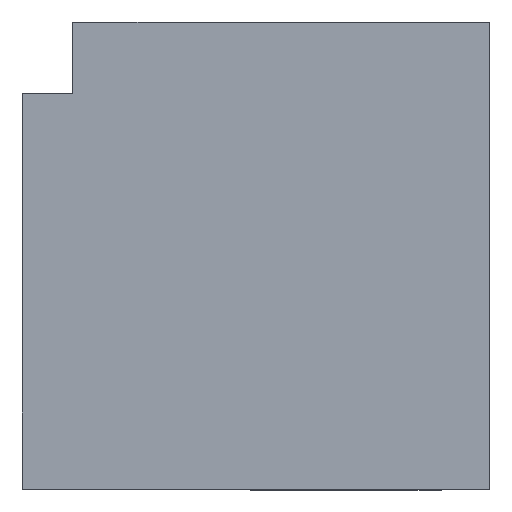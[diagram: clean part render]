
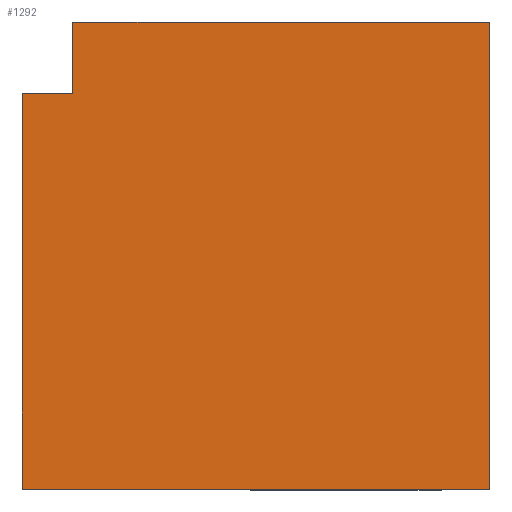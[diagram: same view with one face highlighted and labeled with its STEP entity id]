
A CAD part, top view. The second image highlights one B-rep face of the part: STEP entity #1292.
In plain terms, the highlighted planar face has unit normal (0, 0, 1).
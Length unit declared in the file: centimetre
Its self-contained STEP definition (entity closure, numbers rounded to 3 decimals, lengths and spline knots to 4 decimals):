
#1 = LINE ( 'NONE', #1041, #629 ) ;
#67 = FACE_OUTER_BOUND ( 'NONE', #309, .T. ) ;
#85 = LINE ( 'NONE', #1243, #1318 ) ;
#105 = VERTEX_POINT ( 'NONE', #1224 ) ;
#127 = CARTESIAN_POINT ( 'NONE',  ( 0., 0., 1000. ) ) ;
#132 = VERTEX_POINT ( 'NONE', #409 ) ;
#167 = VECTOR ( 'NONE', #863, 100. ) ;
#280 = DIRECTION ( 'NONE',  ( 1., 0., 0. ) ) ;
#285 = EDGE_CURVE ( 'NONE', #1294, #105, #1, .T. ) ;
#309 = EDGE_LOOP ( 'NONE', ( #1161, #786, #942, #495, #883, #683 ) ) ;
#318 = CARTESIAN_POINT ( 'NONE',  ( 0., 847.5264, 1000. ) ) ;
#329 = VERTEX_POINT ( 'NONE', #318 ) ;
#333 = DIRECTION ( 'NONE',  ( 0., 1., 0. ) ) ;
#345 = CARTESIAN_POINT ( 'NONE',  ( 108.0588, 847.5264, 1000. ) ) ;
#369 = VECTOR ( 'NONE', #547, 100. ) ;
#387 = CARTESIAN_POINT ( 'NONE',  ( 0., 1000., 1000. ) ) ;
#403 = VERTEX_POINT ( 'NONE', #541 ) ;
#409 = CARTESIAN_POINT ( 'NONE',  ( 108.0588, 1000., 1000. ) ) ;
#481 = PLANE ( 'NONE',  #1065 ) ;
#495 = ORIENTED_EDGE ( 'NONE', *, *, #775, .T. ) ;
#503 = DIRECTION ( 'NONE',  ( 0., 1., 0. ) ) ;
#541 = CARTESIAN_POINT ( 'NONE',  ( 0., 0., 1000. ) ) ;
#547 = DIRECTION ( 'NONE',  ( 1., 0., 0. ) ) ;
#625 = CARTESIAN_POINT ( 'NONE',  ( 0., 1000., 1000. ) ) ;
#629 = VECTOR ( 'NONE', #333, 100. ) ;
#643 = LINE ( 'NONE', #127, #369 ) ;
#674 = VECTOR ( 'NONE', #1201, 100. ) ;
#676 = CARTESIAN_POINT ( 'NONE',  ( 0., 847.5264, 1000. ) ) ;
#683 = ORIENTED_EDGE ( 'NONE', *, *, #856, .T. ) ;
#686 = CARTESIAN_POINT ( 'NONE',  ( 0., 0., 1000. ) ) ;
#763 = VERTEX_POINT ( 'NONE', #345 ) ;
#775 = EDGE_CURVE ( 'NONE', #403, #1294, #643, .T. ) ;
#786 = ORIENTED_EDGE ( 'NONE', *, *, #855, .F. ) ;
#805 = VECTOR ( 'NONE', #1211, 100. ) ;
#855 = EDGE_CURVE ( 'NONE', #329, #763, #1207, .T. ) ;
#856 = EDGE_CURVE ( 'NONE', #105, #132, #1090, .T. ) ;
#863 = DIRECTION ( 'NONE',  ( 0., -1., 0. ) ) ;
#883 = ORIENTED_EDGE ( 'NONE', *, *, #285, .T. ) ;
#932 = LINE ( 'NONE', #625, #167 ) ;
#942 = ORIENTED_EDGE ( 'NONE', *, *, #1098, .T. ) ;
#1019 = EDGE_CURVE ( 'NONE', #763, #132, #85, .T. ) ;
#1041 = CARTESIAN_POINT ( 'NONE',  ( 1000., 1000., 1000. ) ) ;
#1065 = AXIS2_PLACEMENT_3D ( 'NONE', #686, #1307, #280 ) ;
#1090 = LINE ( 'NONE', #387, #674 ) ;
#1098 = EDGE_CURVE ( 'NONE', #329, #403, #932, .T. ) ;
#1161 = ORIENTED_EDGE ( 'NONE', *, *, #1019, .F. ) ;
#1201 = DIRECTION ( 'NONE',  ( -1., 0., 0. ) ) ;
#1207 = LINE ( 'NONE', #676, #805 ) ;
#1211 = DIRECTION ( 'NONE',  ( 1., 0., 0. ) ) ;
#1224 = CARTESIAN_POINT ( 'NONE',  ( 1000., 1000., 1000. ) ) ;
#1243 = CARTESIAN_POINT ( 'NONE',  ( 108.0588, 847.5264, 1000. ) ) ;
#1287 = CARTESIAN_POINT ( 'NONE',  ( 1000., 0., 1000. ) ) ;
#1292 = ADVANCED_FACE ( 'NONE', ( #67 ), #481, .T. ) ;
#1294 = VERTEX_POINT ( 'NONE', #1287 ) ;
#1307 = DIRECTION ( 'NONE',  ( 0., 0., 1. ) ) ;
#1318 = VECTOR ( 'NONE', #503, 100. ) ;
